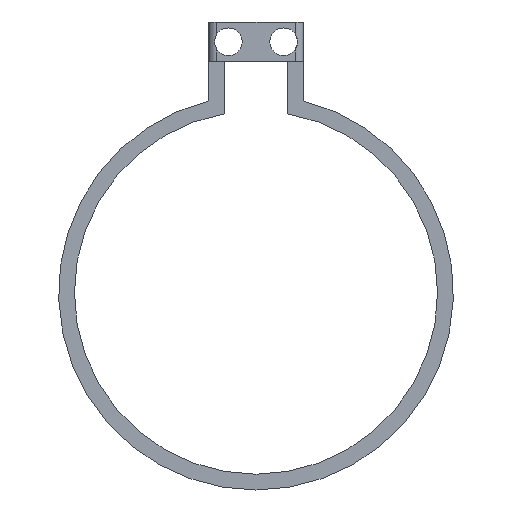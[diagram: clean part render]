
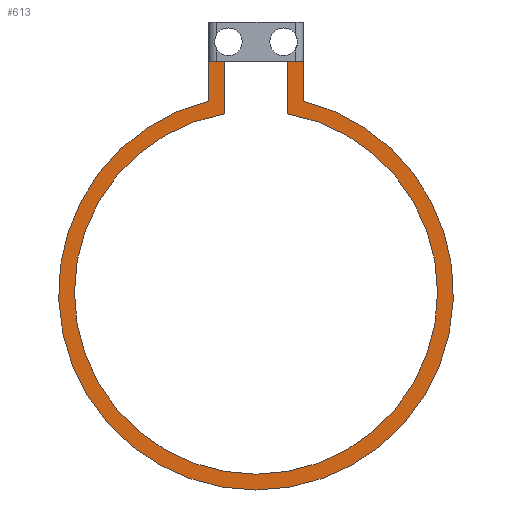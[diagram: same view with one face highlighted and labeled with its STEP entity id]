
A CAD part, left-side view. The second image highlights one B-rep face of the part: STEP entity #613.
In plain terms, the highlighted planar face has unit normal (-1, 0, 0).
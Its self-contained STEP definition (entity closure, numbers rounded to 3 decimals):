
#19=FACE_BOUND('',#94,.T.);
#20=FACE_BOUND('',#95,.T.);
#35=PLANE('',#682);
#63=FACE_OUTER_BOUND('',#93,.T.);
#93=EDGE_LOOP('',(#553,#554,#555,#556,#557,#558,#559,#560,#561,#562,#563,
#564));
#94=EDGE_LOOP('',(#565));
#95=EDGE_LOOP('',(#566));
#117=CIRCLE('',#669,1.75);
#118=CIRCLE('',#671,1.75);
#119=CIRCLE('',#674,25.);
#121=CIRCLE('',#679,23.);
#151=LINE('',#977,#209);
#157=LINE('',#991,#215);
#158=LINE('',#995,#216);
#164=LINE('',#1020,#222);
#165=LINE('',#1024,#223);
#170=LINE('',#1041,#228);
#171=LINE('',#1042,#229);
#173=LINE('',#1050,#231);
#175=LINE('',#1054,#233);
#179=LINE('',#1065,#237);
#209=VECTOR('',#768,10.);
#215=VECTOR('',#778,10.);
#216=VECTOR('',#781,10.);
#222=VECTOR('',#793,10.);
#223=VECTOR('',#796,10.);
#228=VECTOR('',#819,10.);
#229=VECTOR('',#820,10.);
#231=VECTOR('',#830,10.);
#233=VECTOR('',#834,10.);
#237=VECTOR('',#846,10.);
#278=VERTEX_POINT('',#974);
#279=VERTEX_POINT('',#976);
#284=VERTEX_POINT('',#988);
#285=VERTEX_POINT('',#990);
#286=VERTEX_POINT('',#992);
#287=VERTEX_POINT('',#994);
#293=VERTEX_POINT('',#1019);
#294=VERTEX_POINT('',#1021);
#295=VERTEX_POINT('',#1023);
#297=VERTEX_POINT('',#1033);
#298=VERTEX_POINT('',#1037);
#299=VERTEX_POINT('',#1044);
#301=VERTEX_POINT('',#1053);
#303=VERTEX_POINT('',#1059);
#351=EDGE_CURVE('',#278,#279,#151,.T.);
#358=EDGE_CURVE('',#285,#284,#157,.T.);
#360=EDGE_CURVE('',#287,#286,#158,.T.);
#368=EDGE_CURVE('',#279,#293,#164,.T.);
#370=EDGE_CURVE('',#294,#295,#165,.T.);
#376=EDGE_CURVE('',#297,#297,#117,.T.);
#378=EDGE_CURVE('',#298,#298,#118,.T.);
#380=EDGE_CURVE('',#285,#294,#170,.T.);
#381=EDGE_CURVE('',#286,#293,#171,.T.);
#382=EDGE_CURVE('',#299,#278,#119,.T.);
#385=EDGE_CURVE('',#295,#299,#173,.T.);
#387=EDGE_CURVE('',#301,#287,#175,.T.);
#390=EDGE_CURVE('',#303,#301,#121,.T.);
#393=EDGE_CURVE('',#284,#303,#179,.T.);
#553=ORIENTED_EDGE('',*,*,#387,.T.);
#554=ORIENTED_EDGE('',*,*,#360,.T.);
#555=ORIENTED_EDGE('',*,*,#381,.T.);
#556=ORIENTED_EDGE('',*,*,#368,.F.);
#557=ORIENTED_EDGE('',*,*,#351,.F.);
#558=ORIENTED_EDGE('',*,*,#382,.F.);
#559=ORIENTED_EDGE('',*,*,#385,.F.);
#560=ORIENTED_EDGE('',*,*,#370,.F.);
#561=ORIENTED_EDGE('',*,*,#380,.F.);
#562=ORIENTED_EDGE('',*,*,#358,.T.);
#563=ORIENTED_EDGE('',*,*,#393,.T.);
#564=ORIENTED_EDGE('',*,*,#390,.T.);
#565=ORIENTED_EDGE('',*,*,#378,.T.);
#566=ORIENTED_EDGE('',*,*,#376,.T.);
#613=ADVANCED_FACE('',(#63,#19,#20),#35,.F.);
#669=AXIS2_PLACEMENT_3D('',#1034,#809,#810);
#671=AXIS2_PLACEMENT_3D('',#1038,#814,#815);
#674=AXIS2_PLACEMENT_3D('',#1045,#823,#824);
#679=AXIS2_PLACEMENT_3D('',#1060,#839,#840);
#682=AXIS2_PLACEMENT_3D('',#1067,#848,#849);
#768=DIRECTION('',(0.,0.,1.));
#778=DIRECTION('',(0.,-1.,0.));
#781=DIRECTION('',(0.,-1.,0.));
#793=DIRECTION('',(0.,-1.,0.));
#796=DIRECTION('',(0.,-1.,0.));
#809=DIRECTION('center_axis',(1.,0.,0.));
#810=DIRECTION('ref_axis',(0.,-1.,0.));
#814=DIRECTION('center_axis',(1.,0.,0.));
#815=DIRECTION('ref_axis',(0.,-1.,0.));
#819=DIRECTION('',(0.,0.,1.));
#820=DIRECTION('',(0.,0.,1.));
#823=DIRECTION('center_axis',(1.,0.,0.));
#824=DIRECTION('ref_axis',(0.,-0.24,0.971));
#830=DIRECTION('',(0.,0.,-1.));
#834=DIRECTION('',(0.,0.,1.));
#839=DIRECTION('center_axis',(1.,0.,0.));
#840=DIRECTION('ref_axis',(0.,-0.24,0.971));
#846=DIRECTION('',(0.,0.,-1.));
#848=DIRECTION('center_axis',(1.,0.,0.));
#849=DIRECTION('ref_axis',(0.,0.,-1.));
#974=CARTESIAN_POINT('',(0.,6.,-5.));
#976=CARTESIAN_POINT('',(0.,6.,5.));
#977=CARTESIAN_POINT('',(0.,6.,-5.));
#988=CARTESIAN_POINT('',(0.,-4.,0.));
#990=CARTESIAN_POINT('',(0.,-1.,0.));
#991=CARTESIAN_POINT('',(0.,6.,0.));
#992=CARTESIAN_POINT('',(0.,1.,0.));
#994=CARTESIAN_POINT('',(0.,4.,0.));
#995=CARTESIAN_POINT('',(0.,6.,0.));
#1019=CARTESIAN_POINT('',(0.,1.,5.));
#1020=CARTESIAN_POINT('',(0.,6.,5.));
#1021=CARTESIAN_POINT('',(0.,-1.,5.));
#1023=CARTESIAN_POINT('',(0.,-6.,5.));
#1024=CARTESIAN_POINT('',(0.,6.,5.));
#1033=CARTESIAN_POINT('',(0.,-1.75,2.5));
#1034=CARTESIAN_POINT('Origin',(0.,-3.5,2.5));
#1037=CARTESIAN_POINT('',(0.,5.25,2.5));
#1038=CARTESIAN_POINT('Origin',(0.,3.5,2.5));
#1041=CARTESIAN_POINT('',(0.,-1.,0.));
#1042=CARTESIAN_POINT('',(0.,1.,0.));
#1044=CARTESIAN_POINT('',(0.,-6.,-5.));
#1045=CARTESIAN_POINT('Origin',(0.,0.,-29.269));
#1050=CARTESIAN_POINT('',(0.,-6.,0.));
#1053=CARTESIAN_POINT('',(0.,4.,-6.62));
#1054=CARTESIAN_POINT('',(0.,4.,-5.));
#1059=CARTESIAN_POINT('',(0.,-4.,-6.62));
#1060=CARTESIAN_POINT('Origin',(0.,0.,-29.269));
#1065=CARTESIAN_POINT('',(0.,-4.,0.));
#1067=CARTESIAN_POINT('Origin',(0.,6.,-2.5));
